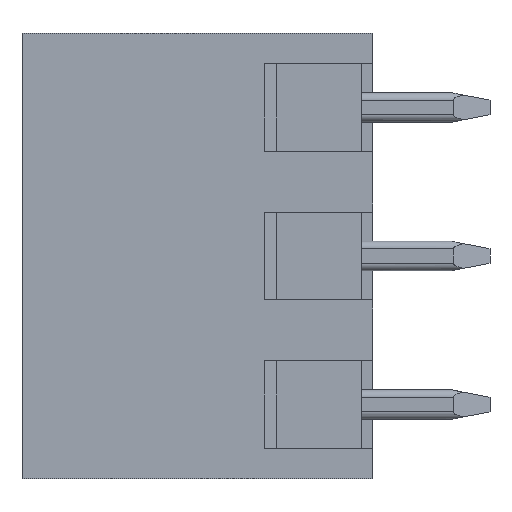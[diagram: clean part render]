
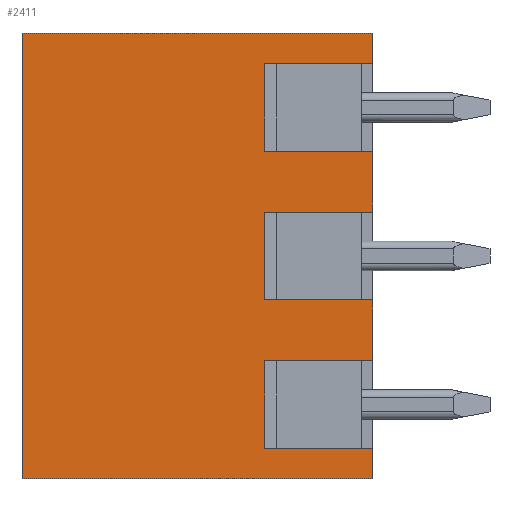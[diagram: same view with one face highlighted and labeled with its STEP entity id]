
A CAD part, left-side view. The second image highlights one B-rep face of the part: STEP entity #2411.
In plain terms, the highlighted planar face has unit normal (-1, 0, 0).
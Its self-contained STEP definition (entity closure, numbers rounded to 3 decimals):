
#1=DIRECTION('',(0.,1.,0.));
#2=VECTOR('',#1,12.);
#3=CARTESIAN_POINT('',(0.,0.,-15.24));
#4=LINE('',#3,#2);
#5=DIRECTION('',(0.,0.,-1.));
#6=VECTOR('',#5,1.04);
#7=CARTESIAN_POINT('',(0.,0.,0.));
#8=LINE('',#7,#6);
#9=DIRECTION('',(0.,1.,0.));
#10=VECTOR('',#9,3.7);
#11=CARTESIAN_POINT('',(0.,0.,-1.04));
#12=LINE('',#11,#10);
#13=DIRECTION('',(0.,0.,-1.));
#14=VECTOR('',#13,3.);
#15=CARTESIAN_POINT('',(0.,3.7,-1.04));
#16=LINE('',#15,#14);
#17=DIRECTION('',(0.,-1.,0.));
#18=VECTOR('',#17,3.7);
#19=CARTESIAN_POINT('',(0.,3.7,-4.04));
#20=LINE('',#19,#18);
#21=DIRECTION('',(0.,0.,-1.));
#22=VECTOR('',#21,2.08);
#23=CARTESIAN_POINT('',(0.,0.,-4.04));
#24=LINE('',#23,#22);
#25=DIRECTION('',(0.,1.,0.));
#26=VECTOR('',#25,3.7);
#27=CARTESIAN_POINT('',(0.,0.,-6.12));
#28=LINE('',#27,#26);
#29=DIRECTION('',(0.,0.,-1.));
#30=VECTOR('',#29,3.);
#31=CARTESIAN_POINT('',(0.,3.7,-6.12));
#32=LINE('',#31,#30);
#33=DIRECTION('',(0.,-1.,0.));
#34=VECTOR('',#33,3.7);
#35=CARTESIAN_POINT('',(0.,3.7,-9.12));
#36=LINE('',#35,#34);
#37=DIRECTION('',(0.,0.,-1.));
#38=VECTOR('',#37,2.08);
#39=CARTESIAN_POINT('',(0.,0.,-9.12));
#40=LINE('',#39,#38);
#41=DIRECTION('',(0.,1.,0.));
#42=VECTOR('',#41,3.7);
#43=CARTESIAN_POINT('',(0.,0.,-11.2));
#44=LINE('',#43,#42);
#45=DIRECTION('',(0.,0.,-1.));
#46=VECTOR('',#45,3.);
#47=CARTESIAN_POINT('',(0.,3.7,-11.2));
#48=LINE('',#47,#46);
#49=DIRECTION('',(0.,-1.,0.));
#50=VECTOR('',#49,3.7);
#51=CARTESIAN_POINT('',(0.,3.7,-14.2));
#52=LINE('',#51,#50);
#53=DIRECTION('',(0.,0.,-1.));
#54=VECTOR('',#53,1.04);
#55=CARTESIAN_POINT('',(0.,0.,-14.2));
#56=LINE('',#55,#54);
#257=DIRECTION('',(0.,1.,0.));
#258=VECTOR('',#257,12.);
#259=CARTESIAN_POINT('',(0.,0.,0.));
#260=LINE('',#259,#258);
#305=DIRECTION('',(0.,0.,-1.));
#306=VECTOR('',#305,15.24);
#307=CARTESIAN_POINT('',(0.,12.,0.));
#308=LINE('',#307,#306);
#1900=CARTESIAN_POINT('',(0.,0.,-15.24));
#1901=CARTESIAN_POINT('',(0.,12.,-15.24));
#1902=VERTEX_POINT('',#1900);
#1903=VERTEX_POINT('',#1901);
#1904=CARTESIAN_POINT('',(0.,12.,0.));
#1905=VERTEX_POINT('',#1904);
#1906=CARTESIAN_POINT('',(0.,0.,0.));
#1907=VERTEX_POINT('',#1906);
#1908=CARTESIAN_POINT('',(0.,0.,-1.04));
#1909=VERTEX_POINT('',#1908);
#1910=CARTESIAN_POINT('',(0.,3.7,-1.04));
#1911=VERTEX_POINT('',#1910);
#1912=CARTESIAN_POINT('',(0.,3.7,-4.04));
#1913=VERTEX_POINT('',#1912);
#1914=CARTESIAN_POINT('',(0.,0.,-4.04));
#1915=VERTEX_POINT('',#1914);
#1916=CARTESIAN_POINT('',(0.,0.,-6.12));
#1917=VERTEX_POINT('',#1916);
#1918=CARTESIAN_POINT('',(0.,3.7,-6.12));
#1919=VERTEX_POINT('',#1918);
#1920=CARTESIAN_POINT('',(0.,3.7,-9.12));
#1921=VERTEX_POINT('',#1920);
#1922=CARTESIAN_POINT('',(0.,0.,-9.12));
#1923=VERTEX_POINT('',#1922);
#1924=CARTESIAN_POINT('',(0.,0.,-11.2));
#1925=VERTEX_POINT('',#1924);
#1926=CARTESIAN_POINT('',(0.,3.7,-11.2));
#1927=VERTEX_POINT('',#1926);
#1928=CARTESIAN_POINT('',(0.,3.7,-14.2));
#1929=VERTEX_POINT('',#1928);
#1930=CARTESIAN_POINT('',(0.,0.,-14.2));
#1931=VERTEX_POINT('',#1930);
#2372=CARTESIAN_POINT('',(0.,12.,-16.24));
#2373=DIRECTION('',(-1.,0.,0.));
#2374=DIRECTION('',(0.,-1.,0.));
#2375=AXIS2_PLACEMENT_3D('',#2372,#2373,#2374);
#2376=PLANE('',#2375);
#2378=ORIENTED_EDGE('',*,*,#2377,.T.);
#2380=ORIENTED_EDGE('',*,*,#2379,.F.);
#2382=ORIENTED_EDGE('',*,*,#2381,.F.);
#2384=ORIENTED_EDGE('',*,*,#2383,.T.);
#2386=ORIENTED_EDGE('',*,*,#2385,.T.);
#2388=ORIENTED_EDGE('',*,*,#2387,.T.);
#2390=ORIENTED_EDGE('',*,*,#2389,.T.);
#2392=ORIENTED_EDGE('',*,*,#2391,.T.);
#2394=ORIENTED_EDGE('',*,*,#2393,.T.);
#2396=ORIENTED_EDGE('',*,*,#2395,.T.);
#2398=ORIENTED_EDGE('',*,*,#2397,.T.);
#2400=ORIENTED_EDGE('',*,*,#2399,.T.);
#2402=ORIENTED_EDGE('',*,*,#2401,.T.);
#2404=ORIENTED_EDGE('',*,*,#2403,.T.);
#2406=ORIENTED_EDGE('',*,*,#2405,.T.);
#2408=ORIENTED_EDGE('',*,*,#2407,.T.);
#2409=EDGE_LOOP('',(#2378,#2380,#2382,#2384,#2386,#2388,#2390,#2392,#2394,#2396,
#2398,#2400,#2402,#2404,#2406,#2408));
#2410=FACE_OUTER_BOUND('',#2409,.F.);
#2411=ADVANCED_FACE('',(#2410),#2376,.T.);
#2377=EDGE_CURVE('',#1902,#1903,#4,.T.);
#2379=EDGE_CURVE('',#1905,#1903,#308,.T.);
#2381=EDGE_CURVE('',#1907,#1905,#260,.T.);
#2383=EDGE_CURVE('',#1907,#1909,#8,.T.);
#2385=EDGE_CURVE('',#1909,#1911,#12,.T.);
#2387=EDGE_CURVE('',#1911,#1913,#16,.T.);
#2389=EDGE_CURVE('',#1913,#1915,#20,.T.);
#2391=EDGE_CURVE('',#1915,#1917,#24,.T.);
#2393=EDGE_CURVE('',#1917,#1919,#28,.T.);
#2395=EDGE_CURVE('',#1919,#1921,#32,.T.);
#2397=EDGE_CURVE('',#1921,#1923,#36,.T.);
#2399=EDGE_CURVE('',#1923,#1925,#40,.T.);
#2401=EDGE_CURVE('',#1925,#1927,#44,.T.);
#2403=EDGE_CURVE('',#1927,#1929,#48,.T.);
#2405=EDGE_CURVE('',#1929,#1931,#52,.T.);
#2407=EDGE_CURVE('',#1931,#1902,#56,.T.);
